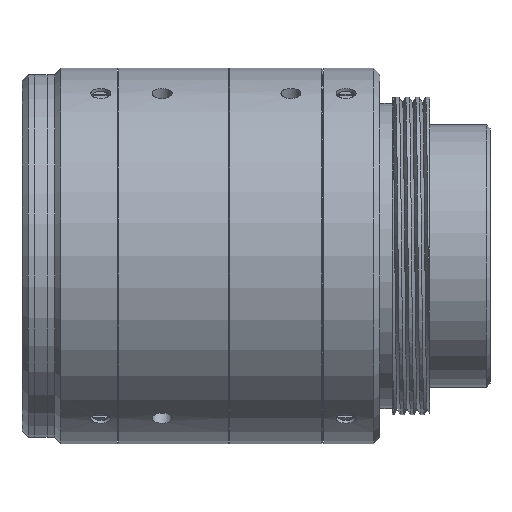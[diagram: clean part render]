
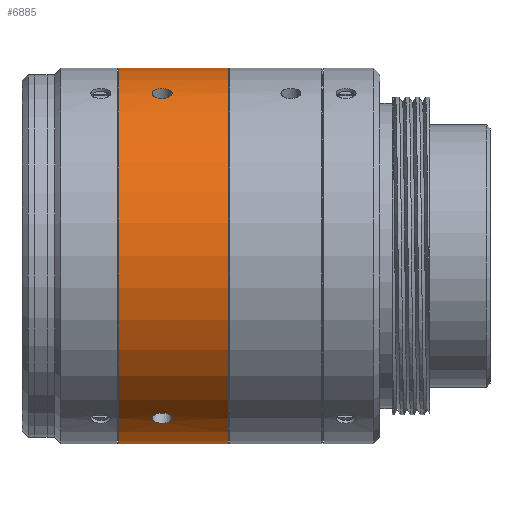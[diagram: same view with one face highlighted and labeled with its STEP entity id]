
A CAD part, top view. The second image highlights one B-rep face of the part: STEP entity #6885.
In plain terms, the highlighted cylindrical face has radius 15 mm (diameter 30 mm), a partial arc.
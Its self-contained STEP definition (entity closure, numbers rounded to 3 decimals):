
#5071=CARTESIAN_POINT('',(-1.546,0.,0.));
#5072=DIRECTION('',(1.,0.,0.));
#5073=DIRECTION('',(0.,1.,0.));
#5074=AXIS2_PLACEMENT_3D('',#5071,#5072,#5073);
#5095=DIRECTION('',(-1.,0.,0.));
#5096=VECTOR('',#5095,8.8);
#5097=CARTESIAN_POINT('',(7.254,15.,0.));
#5098=LINE('',#5097,#5096);
#5102=DIRECTION('',(-1.,0.,0.));
#5103=VECTOR('',#5102,8.8);
#5104=CARTESIAN_POINT('',(7.254,-15.,0.));
#5105=LINE('',#5104,#5103);
#5109=CARTESIAN_POINT('',(7.254,0.,0.));
#5110=DIRECTION('',(-1.,0.,0.));
#5111=DIRECTION('',(0.,-1.,0.));
#5112=AXIS2_PLACEMENT_3D('',#5109,#5110,#5111);
#5141=CARTESIAN_POINT('',(2.754,-12.99,7.5));
#5142=CARTESIAN_POINT('',(2.754,-13.028,7.435));
#5143=CARTESIAN_POINT('',(2.733,-13.102,7.305));
#5144=CARTESIAN_POINT('',(2.638,-13.203,7.12));
#5145=CARTESIAN_POINT('',(2.487,-13.285,6.965));
#5146=CARTESIAN_POINT('',(2.291,-13.343,6.852));
#5147=CARTESIAN_POINT('',(2.069,-13.373,6.794));
#5148=CARTESIAN_POINT('',(1.839,-13.373,6.794));
#5149=CARTESIAN_POINT('',(1.615,-13.343,6.853));
#5150=CARTESIAN_POINT('',(1.423,-13.286,6.963));
#5151=CARTESIAN_POINT('',(1.272,-13.205,7.116));
#5152=CARTESIAN_POINT('',(1.175,-13.104,7.302));
#5153=CARTESIAN_POINT('',(1.154,-13.028,7.434));
#5154=CARTESIAN_POINT('',(1.154,-12.99,7.5));
#5184=CARTESIAN_POINT('',(1.154,-12.99,7.5));
#5185=CARTESIAN_POINT('',(1.154,-12.953,7.565));
#5186=CARTESIAN_POINT('',(1.175,-12.877,7.695));
#5187=CARTESIAN_POINT('',(1.27,-12.767,7.876));
#5188=CARTESIAN_POINT('',(1.422,-12.674,8.024));
#5189=CARTESIAN_POINT('',(1.618,-12.606,8.13));
#5190=CARTESIAN_POINT('',(1.839,-12.57,8.185));
#5191=CARTESIAN_POINT('',(2.073,-12.571,8.184));
#5192=CARTESIAN_POINT('',(2.295,-12.607,8.128));
#5193=CARTESIAN_POINT('',(2.489,-12.675,8.022));
#5194=CARTESIAN_POINT('',(2.638,-12.768,7.873));
#5195=CARTESIAN_POINT('',(2.733,-12.877,7.694));
#5196=CARTESIAN_POINT('',(2.754,-12.953,7.565));
#5197=CARTESIAN_POINT('',(2.754,-12.99,7.5));
#5227=CARTESIAN_POINT('',(2.754,12.99,7.5));
#5228=CARTESIAN_POINT('',(2.754,12.953,7.565));
#5229=CARTESIAN_POINT('',(2.733,12.877,7.694));
#5230=CARTESIAN_POINT('',(2.637,12.767,7.875));
#5231=CARTESIAN_POINT('',(2.487,12.674,8.023));
#5232=CARTESIAN_POINT('',(2.292,12.606,8.129));
#5233=CARTESIAN_POINT('',(2.071,12.571,8.184));
#5234=CARTESIAN_POINT('',(1.837,12.57,8.184));
#5235=CARTESIAN_POINT('',(1.616,12.606,8.13));
#5236=CARTESIAN_POINT('',(1.419,12.675,8.023));
#5237=CARTESIAN_POINT('',(1.268,12.768,7.873));
#5238=CARTESIAN_POINT('',(1.174,12.877,7.693));
#5239=CARTESIAN_POINT('',(1.154,12.953,7.564));
#5240=CARTESIAN_POINT('',(1.154,12.99,7.5));
#5270=CARTESIAN_POINT('',(1.154,12.99,7.5));
#5271=CARTESIAN_POINT('',(1.154,13.028,7.435));
#5272=CARTESIAN_POINT('',(1.174,13.102,7.305));
#5273=CARTESIAN_POINT('',(1.269,13.203,7.12));
#5274=CARTESIAN_POINT('',(1.42,13.285,6.965));
#5275=CARTESIAN_POINT('',(1.616,13.343,6.852));
#5276=CARTESIAN_POINT('',(1.838,13.373,6.794));
#5277=CARTESIAN_POINT('',(2.068,13.373,6.794));
#5278=CARTESIAN_POINT('',(2.292,13.343,6.853));
#5279=CARTESIAN_POINT('',(2.484,13.286,6.963));
#5280=CARTESIAN_POINT('',(2.635,13.205,7.116));
#5281=CARTESIAN_POINT('',(2.732,13.103,7.302));
#5282=CARTESIAN_POINT('',(2.754,13.028,7.434));
#5283=CARTESIAN_POINT('',(2.754,12.99,7.5));
#5934=CARTESIAN_POINT('',(-1.546,-15.,0.));
#5935=CARTESIAN_POINT('',(-1.546,15.,0.));
#5936=VERTEX_POINT('',#5934);
#5937=VERTEX_POINT('',#5935);
#5938=CARTESIAN_POINT('',(7.254,15.,0.));
#5939=VERTEX_POINT('',#5938);
#5940=CARTESIAN_POINT('',(7.254,-15.,0.));
#5941=VERTEX_POINT('',#5940);
#5944=VERTEX_POINT('',#5141);
#5945=VERTEX_POINT('',#5154);
#5946=VERTEX_POINT('',#5227);
#5947=VERTEX_POINT('',#5240);
#6861=CARTESIAN_POINT('',(19.349,0.,0.));
#6862=DIRECTION('',(-1.,0.,0.));
#6863=DIRECTION('',(0.,1.,0.));
#6864=AXIS2_PLACEMENT_3D('',#6861,#6862,#6863);
#6865=CYLINDRICAL_SURFACE('',#6864,15.);
#6866=ORIENTED_EDGE('',*,*,#6838,.F.);
#6868=ORIENTED_EDGE('',*,*,#6867,.F.);
#6869=ORIENTED_EDGE('',*,*,#6841,.T.);
#6870=ORIENTED_EDGE('',*,*,#6817,.F.);
#6871=EDGE_LOOP('',(#6866,#6868,#6869,#6870));
#6872=FACE_OUTER_BOUND('',#6871,.F.);
#6874=ORIENTED_EDGE('',*,*,#6873,.F.);
#6876=ORIENTED_EDGE('',*,*,#6875,.F.);
#6877=EDGE_LOOP('',(#6874,#6876));
#6878=FACE_BOUND('',#6877,.F.);
#6880=ORIENTED_EDGE('',*,*,#6879,.F.);
#6882=ORIENTED_EDGE('',*,*,#6881,.F.);
#6883=EDGE_LOOP('',(#6880,#6882));
#6884=FACE_BOUND('',#6883,.F.);
#6885=ADVANCED_FACE('',(#6872,#6878,#6884),#6865,.T.);
#5075=CIRCLE('',#5074,15.);
#5113=CIRCLE('',#5112,15.);
#5155=B_SPLINE_CURVE_WITH_KNOTS('',3,(#5141,#5142,#5143,#5144,#5145,#5146,#5147,
#5148,#5149,#5150,#5151,#5152,#5153,#5154),.UNSPECIFIED.,.F.,.F.,(4,1,1,1,1,1,1,
1,1,1,1,4),(0.,0.091,0.182,0.273,
0.364,0.455,0.545,0.636,
0.727,0.818,0.909,1.),.UNSPECIFIED.);
#5198=B_SPLINE_CURVE_WITH_KNOTS('',3,(#5184,#5185,#5186,#5187,#5188,#5189,#5190,
#5191,#5192,#5193,#5194,#5195,#5196,#5197),.UNSPECIFIED.,.F.,.F.,(4,1,1,1,1,1,1,
1,1,1,1,4),(0.,0.091,0.182,0.273,
0.364,0.455,0.545,0.636,
0.727,0.818,0.909,1.),.UNSPECIFIED.);
#5241=B_SPLINE_CURVE_WITH_KNOTS('',3,(#5227,#5228,#5229,#5230,#5231,#5232,#5233,
#5234,#5235,#5236,#5237,#5238,#5239,#5240),.UNSPECIFIED.,.F.,.F.,(4,1,1,1,1,1,1,
1,1,1,1,4),(0.,0.091,0.182,0.273,
0.364,0.455,0.545,0.636,
0.727,0.818,0.909,1.),.UNSPECIFIED.);
#5284=B_SPLINE_CURVE_WITH_KNOTS('',3,(#5270,#5271,#5272,#5273,#5274,#5275,#5276,
#5277,#5278,#5279,#5280,#5281,#5282,#5283),.UNSPECIFIED.,.F.,.F.,(4,1,1,1,1,1,1,
1,1,1,1,4),(0.,0.091,0.182,0.273,
0.364,0.455,0.545,0.636,
0.727,0.818,0.909,1.),.UNSPECIFIED.);
#6817=EDGE_CURVE('',#5937,#5936,#5075,.T.);
#6838=EDGE_CURVE('',#5939,#5937,#5098,.T.);
#6841=EDGE_CURVE('',#5941,#5936,#5105,.T.);
#6867=EDGE_CURVE('',#5941,#5939,#5113,.T.);
#6873=EDGE_CURVE('',#5944,#5945,#5155,.T.);
#6875=EDGE_CURVE('',#5945,#5944,#5198,.T.);
#6879=EDGE_CURVE('',#5946,#5947,#5241,.T.);
#6881=EDGE_CURVE('',#5947,#5946,#5284,.T.);
